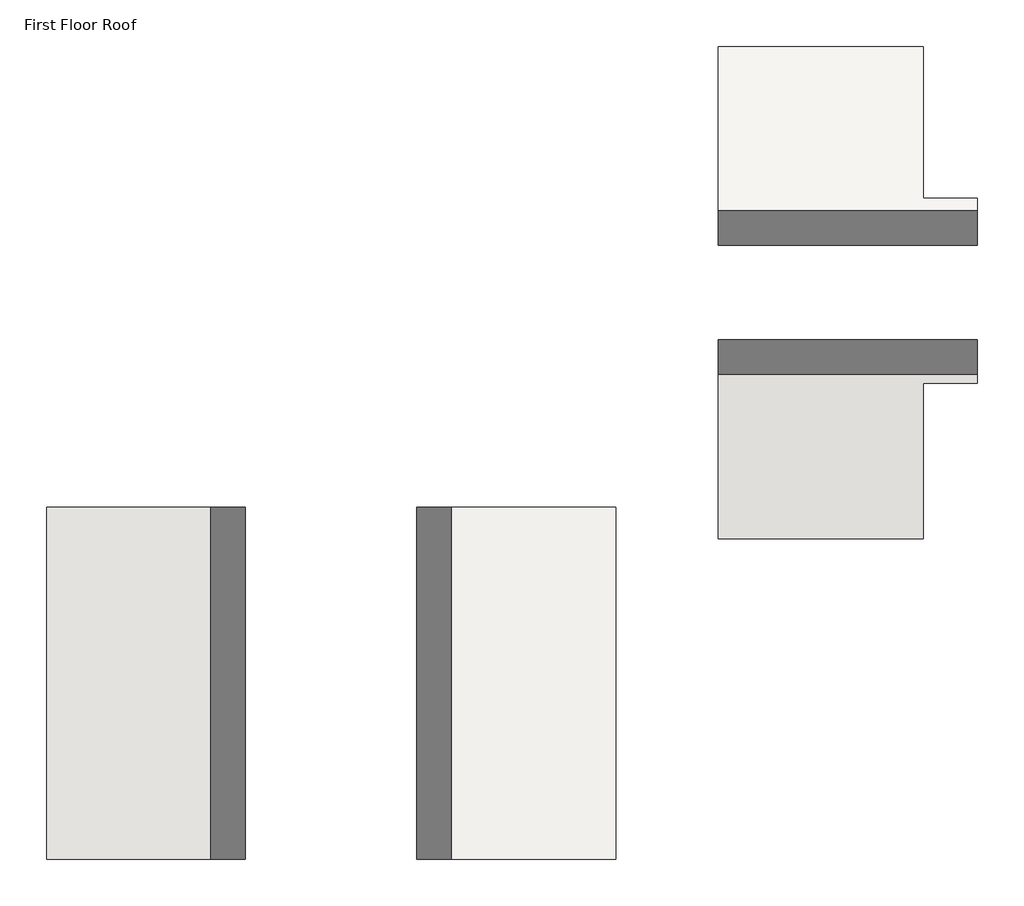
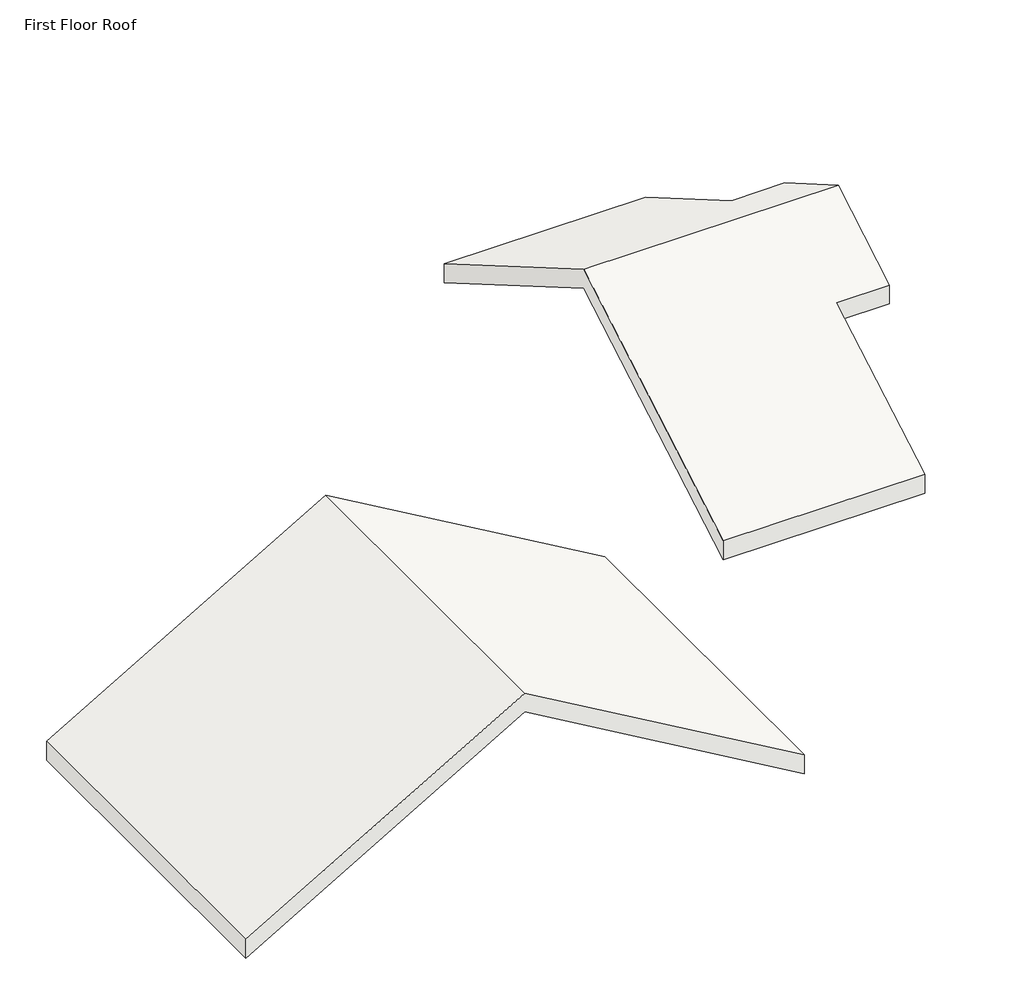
# One storey: 2 roofs.
"""IFC4 building model written with IfcOpenShell, lengths in millimetres."""

import ifcopenshell
import ifcopenshell.guid

model = None  # the IFC model being written
_history = None  # IfcOwnerHistory: only IFC2X3 demands one
_inside = {}  # id of a spatial element -> (the spatial element, [elements in it])
_under = {}  # id of a project, library or spatial element -> (it, [spatial elements below it])
_declared = {}  # id of a project -> (the project, [libraries it declares])
_typed = {}  # id of a type object -> (the type object, [elements of that type])
_made_of = {}  # id of a material, layer set ... -> (it, [elements and type objects made of it])


def new_model(schema):
    """Start an empty IFC model of exactly this schema.

    Asked for "IFC4X3", IfcOpenShell would pick the latest addendum, in which some entities
    have other attributes; the version numbers below select the first issue.
    IFC2X3 requires an IfcOwnerHistory on every rooted entity: one is made here for all.
    """
    global model, _history
    if schema == "IFC4X3":
        model = ifcopenshell.file(schema_version=(4, 3, 0, 0))
    else:
        model = ifcopenshell.file(schema=schema)
    _inside.clear()
    _under.clear()
    _declared.clear()
    _typed.clear()
    _made_of.clear()
    _history = None
    if model.schema == "IFC2X3":
        org = make("IfcOrganization", Name="unknown")
        user = make(
            "IfcPersonAndOrganization",
            ThePerson=make("IfcPerson", FamilyName="unknown"),
            TheOrganization=org,
        )
        app = make(
            "IfcApplication",
            ApplicationDeveloper=org,
            Version="unknown",
            ApplicationFullName="unknown",
            ApplicationIdentifier="unknown",
        )
        _history = make(
            "IfcOwnerHistory",
            OwningUser=user,
            OwningApplication=app,
            ChangeAction="ADDED",
            CreationDate=0,
        )
    return model


def make(cls, **values):
    """One entity of the class cls with the attributes given. An attribute that is None is left unset."""
    return model.create_entity(
        cls, **{name: value for name, value in values.items() if value is not None}
    )


def rooted(cls, **values):
    """An entity with a GlobalId (a new one), such as an element, a storey or a relation."""
    return make(cls, GlobalId=ifcopenshell.guid.new(), OwnerHistory=_history, **values)


def si_unit(unit_type, name, prefix=None):
    """IfcSIUnit, for example si_unit("LENGTHUNIT", "METRE", prefix="MILLI")."""
    return make("IfcSIUnit", UnitType=unit_type, Prefix=prefix, Name=name)


def assignment(units):
    """IfcUnitAssignment: the units of a project."""
    return None if units is None else make("IfcUnitAssignment", Units=units)


def point(xyz):
    """IfcCartesianPoint."""
    return None if xyz is None else make("IfcCartesianPoint", Coordinates=xyz)


def direction(xyz):
    """IfcDirection."""
    return None if xyz is None else make("IfcDirection", DirectionRatios=xyz)


def frame(location, z_axis=None, x_axis=None):
    """IfcAxis2Placement3D, a coordinate frame: its origin and axes. An axis left out is left unset."""
    return make(
        "IfcAxis2Placement3D",
        Location=point(location),
        Axis=direction(z_axis),
        RefDirection=direction(x_axis),
    )


def origin():
    """The frame at (0, 0, 0) with its axes left unset."""
    return frame((0.0, 0.0, 0.0))


def place(relative_to, where):
    """IfcLocalPlacement: puts the frame where relative to a parent placement (None: the world)."""
    return make(
        "IfcLocalPlacement", PlacementRelTo=relative_to, RelativePlacement=where
    )


def context(
    kind, dimensions, precision=None, world=None, true_north=None, identifier=None
):
    """IfcGeometricRepresentationContext, for example the 3D "Model" context."""
    return make(
        "IfcGeometricRepresentationContext",
        ContextIdentifier=identifier,
        ContextType=kind,
        CoordinateSpaceDimension=dimensions,
        Precision=precision,
        WorldCoordinateSystem=world,
        TrueNorth=true_north,
    )


def project(units=None, contexts=None):
    """IfcProject with its units and contexts."""
    return rooted(
        "IfcProject",
        Name="project",
        RepresentationContexts=contexts,
        UnitsInContext=assignment(units),
    )


def spatial(cls, under=None, at=None, **own):
    """A site, building, storey or space (cls), placed at a placement, below another one or the project."""
    s = rooted(cls, ObjectPlacement=at, **own)
    if under is not None:
        _under.setdefault(under.id(), (under, []))[1].append(s)
    return s


def polyline(points):
    """IfcPolyline through the points."""
    return make("IfcPolyline", Points=[point(p) for p in points])


def outline(outer, holes=None, kind="AREA"):
    """IfcArbitraryClosedProfileDef: a profile drawn as a closed curve; with holes, ...WithVoids."""
    if holes is None:
        return make("IfcArbitraryClosedProfileDef", ProfileType=kind, OuterCurve=outer)
    return make(
        "IfcArbitraryProfileDefWithVoids",
        ProfileType=kind,
        OuterCurve=outer,
        InnerCurves=holes,
    )


def extrude(swept, where, along, depth):
    """IfcExtrudedAreaSolid: the profile swept, set in the frame where, extruded along a direction by depth."""
    return make(
        "IfcExtrudedAreaSolid",
        SweptArea=swept,
        Position=where,
        ExtrudedDirection=direction(along),
        Depth=depth,
    )


def faces_of(points, faces, orient=None, outer=None):
    """IfcFace entities. A face is a list of loops; a loop is a list of indices into points, from 0.

    orient and outer hold one flag for each loop. By default every Orientation is true, the
    first loop of a face is its IfcFaceOuterBound and the others are IfcFaceBound.
    """
    made = []
    for i, loops in enumerate(faces):
        bounds = []
        for j, loop in enumerate(loops):
            is_outer = j == 0 if outer is None else outer[i][j]
            bounds.append(
                make(
                    "IfcFaceOuterBound" if is_outer else "IfcFaceBound",
                    Bound=make("IfcPolyLoop", Polygon=[points[k] for k in loop]),
                    Orientation=True if orient is None else orient[i][j],
                )
            )
        made.append(make("IfcFace", Bounds=bounds))
    return made


def faceted_brep(points, faces, orient=None, outer=None, voids=None):
    """IfcFacetedBrep: a solid bounded by flat faces; with voids (closed shells), ...WithVoids."""
    shared = [point(p) for p in points]
    hull = make("IfcClosedShell", CfsFaces=faces_of(shared, faces, orient, outer))
    if voids is None:
        return make("IfcFacetedBrep", Outer=hull)
    return make(
        "IfcFacetedBrepWithVoids",
        Outer=hull,
        Voids=[
            make(cls, CfsFaces=faces_of(shared, fs, o, b)) for cls, fs, o, b in voids
        ],
    )


def shape(context_of_items, identifier, shape_type, items):
    """IfcShapeRepresentation: the items that make up one representation, for example the "Body"."""
    return make(
        "IfcShapeRepresentation",
        ContextOfItems=context_of_items,
        RepresentationIdentifier=identifier,
        RepresentationType=shape_type,
        Items=items,
    )


def made_of(thing, what):
    """Note that an element or type object is made of a material, layer set ...; save() writes the relation."""
    if what is not None:
        _made_of.setdefault(what.id(), (what, []))[1].append(thing)
    return thing


def element(
    cls,
    number,
    at=None,
    inside=None,
    cuts=None,
    type_object=None,
    material=None,
    context=None,
    identifier="Body",
    shape_type=None,
    held_by="IfcProductDefinitionShape",
    body=None,
    shapes=None,
    **own,
):
    """One element of the class cls, such as IfcWall. Its Tag is "e" and its number.

    at: its placement. inside: the storey or other place that contains it. cuts: it is an
    opening in that element (IfcRelVoidsElement). A single representation is given by context,
    identifier, shape_type and body (its items); several are given by shapes. held_by: the class
    of the entity that holds the representations. save() writes the other relations.
    """
    e = rooted(cls, Tag="e%d" % number, ObjectPlacement=at, **own)
    if body is not None:
        shapes = [shape(context, identifier, shape_type, body)]
    if shapes is not None:
        e.Representation = make(held_by, Representations=shapes)
    if inside is not None:
        _inside.setdefault(inside.id(), (inside, []))[1].append(e)
    if cuts is not None:
        rooted(
            "IfcRelVoidsElement", RelatingBuildingElement=cuts, RelatedOpeningElement=e
        )
    if type_object is not None:
        _typed.setdefault(type_object.id(), (type_object, []))[1].append(e)
    return made_of(e, material)


def aggregate(whole, parts):
    """IfcRelAggregates: a whole, such as a stair, and the parts it consists of."""
    return rooted("IfcRelAggregates", RelatingObject=whole, RelatedObjects=parts)


def save(model, path):
    """Write the relations noted so far, then the file.

    IfcRelAggregates (storeys below a building ...), IfcRelContainedInSpatialStructure (elements
    in a storey), IfcRelDefinesByType, IfcRelAssociatesMaterial and IfcRelDeclares: one each for
    every whole, place, type object, material and project.
    """
    for whole, parts in _under.values():
        aggregate(whole, parts)
    for where, things in _inside.values():
        rooted(
            "IfcRelContainedInSpatialStructure",
            RelatedElements=things,
            RelatingStructure=where,
        )
    for kind, things in _typed.values():
        rooted("IfcRelDefinesByType", RelatedObjects=things, RelatingType=kind)
    for what, things in _made_of.values():
        rooted("IfcRelAssociatesMaterial", RelatedObjects=things, RelatingMaterial=what)
    for by, libraries in _declared.values():
        rooted("IfcRelDeclares", RelatingContext=by, RelatedDefinitions=libraries)
    model.write(path)


model = new_model("IFC4")

# Units and contexts
model_context = context("Model", 3, world=origin())
ifc_project = project(units=[si_unit("LENGTHUNIT", "METRE", prefix="MILLI")], contexts=[model_context])

# Site, building, storey
site = spatial("IfcSite", under=ifc_project)
building = spatial("IfcBuilding", under=site)
storey = spatial("IfcBuildingStorey", under=building, Name="First Floor Roof", Elevation=2743.2)

# Roofs
placement = place(None, origin())
element("IfcRoof", 1, ObjectType="Wood Rafter Red 8\" - Asphalt Shingle 2", at=placement, inside=storey, context=model_context, shape_type="Brep", body=[
    faceted_brep([(1364.2519008, -7472.5827303, 2565.4), (-1074.1480992, -7472.5827303, 2565.4), (-1074.1480992, -4548.4077303, 4271.16875), (2005.6019008, -4548.4077303, 4271.16875), (2005.6019008, -5624.7327303, 3643.3125), (1364.2519008, -5624.7327303, 3643.3125), (-1074.1480992, -1624.2327303, 2565.4), (1364.2519008, -1624.2327303, 2565.4), (1364.2519008, -3427.6327303, 3617.3833333), (2005.6019008, -3427.6327303, 3617.3833333), (-1074.1480992, -7472.5827303, 2807.9968032), (1364.2519008, -7472.5827303, 2807.9968032), (1364.2519008, -5624.7327303, 3885.9093032), (2005.6019008, -5624.7327303, 3885.9093032), (2005.6019008, -4548.4077303, 4513.7655532), (-1074.1480992, -4548.4077303, 4513.7655532), (-1074.1480992, -1624.2327303, 2807.9968032), (2005.6019008, -3427.6327303, 3859.9801365), (1364.2519008, -3427.6327303, 3859.9801365), (1364.2519008, -1624.2327303, 2807.9968032)], [[[0, 1, 2, 3, 4, 5]], [[2, 6, 7, 8, 9, 3]], [[10, 11, 12, 13, 14, 15]], [[16, 15, 14, 17, 18, 19]], [[6, 16, 19, 7]], [[0, 11, 10, 1]], [[10, 15, 16, 6, 2, 1]], [[18, 17, 9, 8]], [[17, 14, 13, 4, 3, 9]], [[13, 12, 5, 4]], [[19, 18, 8, 7]], [[12, 11, 0, 5]]]),
])
element("IfcRoof", 2, ObjectType="Wood Rafter Red 8\" - Asphalt Shingle 2", at=placement, inside=storey, context=model_context, shape_type="SweptSolid", body=[
    extrude(outline(polyline([(2807.9968032, -2293.3480992), (4780.4655532, -5674.7230992), (2807.9968032, -9056.0980992), (2565.4, -9056.0980992), (4537.86875, -5674.7230992), (2565.4, -2293.3480992), (2807.9968032, -2293.3480992)])), frame((0.0, -11282.5827303, 0.0), z_axis=(0.0, 1.0, 0.0), x_axis=(0.0, 0.0, 1.0)), (0.0, 0.0, 1.0), 4181.475),
])

save(model, "model.ifc")
